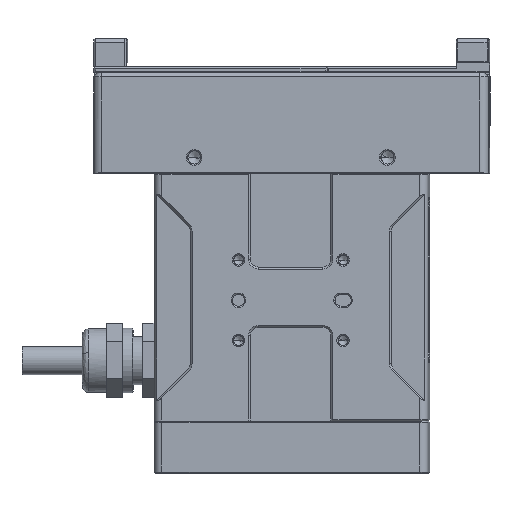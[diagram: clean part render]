
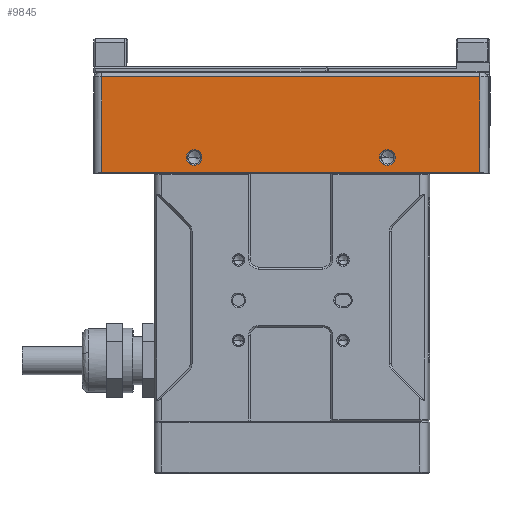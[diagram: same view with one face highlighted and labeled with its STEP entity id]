
A CAD part, front view. The second image highlights one B-rep face of the part: STEP entity #9845.
In plain terms, the highlighted planar face has unit normal (-0.015, -1, 0).
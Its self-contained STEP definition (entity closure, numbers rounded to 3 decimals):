
#639 = CARTESIAN_POINT ( 'NONE',  ( -47.272, -18.525, 43.789 ) ) ;
#742 = CARTESIAN_POINT ( 'NONE',  ( -47.272, -18.525, 67.489 ) ) ;
#1028 = LINE ( 'NONE', #13287, #12343 ) ;
#1423 = VERTEX_POINT ( 'NONE', #742 ) ;
#1446 = CIRCLE ( 'NONE', #17089, 1.95 ) ;
#1539 = FACE_OUTER_BOUND ( 'NONE', #9616, .T. ) ;
#1685 = LINE ( 'NONE', #3037, #4371 ) ;
#1768 = EDGE_LOOP ( 'NONE', ( #8691, #12993 ) ) ;
#1795 = VERTEX_POINT ( 'NONE', #9535 ) ;
#2111 = VECTOR ( 'NONE', #3484, 1000. ) ;
#2162 = DIRECTION ( 'NONE',  ( 0.014, 1., 0. ) ) ;
#2628 = DIRECTION ( 'NONE',  ( -0.014, -1., 0. ) ) ;
#2767 = EDGE_CURVE ( 'NONE', #13502, #5581, #1446, .T. ) ;
#2915 = AXIS2_PLACEMENT_3D ( 'NONE', #7769, #6401, #11787 ) ;
#3037 = CARTESIAN_POINT ( 'NONE',  ( 46.719, -19.885, 67.489 ) ) ;
#3111 = DIRECTION ( 'NONE',  ( 0.014, 1., 0. ) ) ;
#3484 = DIRECTION ( 'NONE',  ( -1., 0.014, 0. ) ) ;
#3673 = CARTESIAN_POINT ( 'NONE',  ( -64.27, -18.279, 67.489 ) ) ;
#4096 = CIRCLE ( 'NONE', #7865, 1.95 ) ;
#4102 = DIRECTION ( 'NONE',  ( 1., -0.014, 0. ) ) ;
#4193 = LINE ( 'NONE', #11088, #14545 ) ;
#4371 = VECTOR ( 'NONE', #10044, 1000. ) ;
#5051 = CARTESIAN_POINT ( 'NONE',  ( -24.274, -18.858, 49.439 ) ) ;
#5475 = EDGE_LOOP ( 'NONE', ( #12142, #10213 ) ) ;
#5581 = VERTEX_POINT ( 'NONE', #8621 ) ;
#5688 = DIRECTION ( 'NONE',  ( 0., 0., -1. ) ) ;
#6258 = CARTESIAN_POINT ( 'NONE',  ( 23.721, -19.552, 47.489 ) ) ;
#6316 = VERTEX_POINT ( 'NONE', #639 ) ;
#6401 = DIRECTION ( 'NONE',  ( 0.014, 1., 0. ) ) ;
#6685 = CIRCLE ( 'NONE', #2915, 1.95 ) ;
#6714 = FACE_BOUND ( 'NONE', #5475, .T. ) ;
#7129 = VERTEX_POINT ( 'NONE', #9077 ) ;
#7297 = CIRCLE ( 'NONE', #9623, 1.95 ) ;
#7709 = CARTESIAN_POINT ( 'NONE',  ( 23.721, -19.552, 49.439 ) ) ;
#7769 = CARTESIAN_POINT ( 'NONE',  ( -24.274, -18.858, 47.489 ) ) ;
#7796 = DIRECTION ( 'NONE',  ( 0., 0., -1. ) ) ;
#7865 = AXIS2_PLACEMENT_3D ( 'NONE', #9935, #3111, #5688 ) ;
#8066 = EDGE_CURVE ( 'NONE', #9891, #14939, #7297, .T. ) ;
#8621 = CARTESIAN_POINT ( 'NONE',  ( -24.274, -18.858, 45.539 ) ) ;
#8691 = ORIENTED_EDGE ( 'NONE', *, *, #11173, .T. ) ;
#8892 = DIRECTION ( 'NONE',  ( 0., 0., -1. ) ) ;
#9077 = CARTESIAN_POINT ( 'NONE',  ( 46.719, -19.885, 43.789 ) ) ;
#9535 = CARTESIAN_POINT ( 'NONE',  ( 46.719, -19.885, 67.489 ) ) ;
#9616 = EDGE_LOOP ( 'NONE', ( #12564, #15821, #17105, #15124 ) ) ;
#9623 = AXIS2_PLACEMENT_3D ( 'NONE', #6258, #12078, #8892 ) ;
#9845 = ADVANCED_FACE ( 'NONE', ( #1539, #12535, #6714 ), #16703, .T. ) ;
#9891 = VERTEX_POINT ( 'NONE', #17044 ) ;
#9935 = CARTESIAN_POINT ( 'NONE',  ( 23.721, -19.552, 47.489 ) ) ;
#10044 = DIRECTION ( 'NONE',  ( 0., 0., 1. ) ) ;
#10213 = ORIENTED_EDGE ( 'NONE', *, *, #11415, .T. ) ;
#11088 = CARTESIAN_POINT ( 'NONE',  ( 61.717, -20.102, 43.789 ) ) ;
#11173 = EDGE_CURVE ( 'NONE', #5581, #13502, #6685, .T. ) ;
#11372 = CARTESIAN_POINT ( 'NONE',  ( -24.274, -18.858, 47.489 ) ) ;
#11415 = EDGE_CURVE ( 'NONE', #14939, #9891, #4096, .T. ) ;
#11779 = LINE ( 'NONE', #3673, #2111 ) ;
#11787 = DIRECTION ( 'NONE',  ( 0., 0., -1. ) ) ;
#12078 = DIRECTION ( 'NONE',  ( 0.014, 1., 0. ) ) ;
#12142 = ORIENTED_EDGE ( 'NONE', *, *, #8066, .T. ) ;
#12296 = EDGE_CURVE ( 'NONE', #1795, #1423, #11779, .T. ) ;
#12343 = VECTOR ( 'NONE', #14915, 1000. ) ;
#12535 = FACE_BOUND ( 'NONE', #1768, .T. ) ;
#12564 = ORIENTED_EDGE ( 'NONE', *, *, #17038, .T. ) ;
#12993 = ORIENTED_EDGE ( 'NONE', *, *, #2767, .T. ) ;
#13019 = AXIS2_PLACEMENT_3D ( 'NONE', #17785, #2628, #13703 ) ;
#13287 = CARTESIAN_POINT ( 'NONE',  ( -47.272, -18.525, 43.789 ) ) ;
#13502 = VERTEX_POINT ( 'NONE', #5051 ) ;
#13507 = EDGE_CURVE ( 'NONE', #1423, #6316, #1028, .T. ) ;
#13703 = DIRECTION ( 'NONE',  ( 0., 0., -1. ) ) ;
#14545 = VECTOR ( 'NONE', #4102, 1000. ) ;
#14915 = DIRECTION ( 'NONE',  ( 0., 0., -1. ) ) ;
#14939 = VERTEX_POINT ( 'NONE', #7709 ) ;
#15124 = ORIENTED_EDGE ( 'NONE', *, *, #13507, .T. ) ;
#15821 = ORIENTED_EDGE ( 'NONE', *, *, #16402, .T. ) ;
#16402 = EDGE_CURVE ( 'NONE', #7129, #1795, #1685, .T. ) ;
#16703 = PLANE ( 'NONE',  #13019 ) ;
#17038 = EDGE_CURVE ( 'NONE', #6316, #7129, #4193, .T. ) ;
#17044 = CARTESIAN_POINT ( 'NONE',  ( 23.721, -19.552, 45.539 ) ) ;
#17089 = AXIS2_PLACEMENT_3D ( 'NONE', #11372, #2162, #7796 ) ;
#17105 = ORIENTED_EDGE ( 'NONE', *, *, #12296, .T. ) ;
#17785 = CARTESIAN_POINT ( 'NONE',  ( -64.27, -18.279, 43.489 ) ) ;
